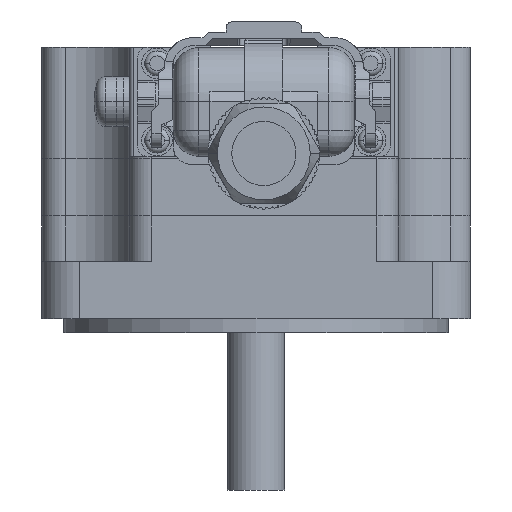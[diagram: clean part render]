
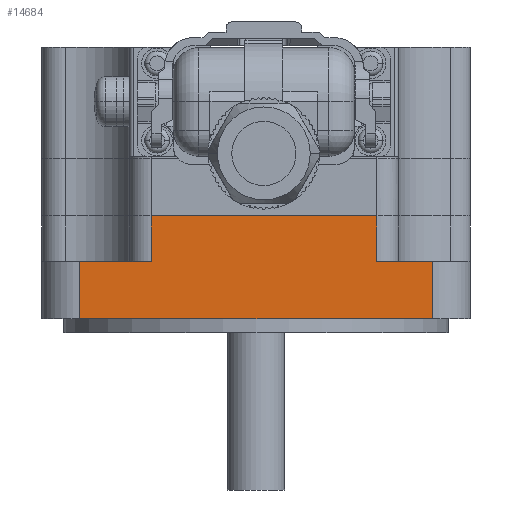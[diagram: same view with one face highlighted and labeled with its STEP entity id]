
A CAD part, front view. The second image highlights one B-rep face of the part: STEP entity #14684.
In plain terms, the highlighted planar face has unit normal (0, -1, 0).
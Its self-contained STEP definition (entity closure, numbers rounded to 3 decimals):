
#303 = EDGE_CURVE ( 'NONE', #13177, #16552, #15212, .T. ) ;
#1094 = VERTEX_POINT ( 'NONE', #16991 ) ;
#1109 = VECTOR ( 'NONE', #14934, 1000. ) ;
#1419 = CARTESIAN_POINT ( 'NONE',  ( -30., -30., 14.4 ) ) ;
#1608 = DIRECTION ( 'NONE',  ( -1., 0., 0. ) ) ;
#1793 = VERTEX_POINT ( 'NONE', #5108 ) ;
#2015 = VECTOR ( 'NONE', #18438, 1000. ) ;
#2038 = VECTOR ( 'NONE', #17392, 1000. ) ;
#2253 = ORIENTED_EDGE ( 'NONE', *, *, #14848, .T. ) ;
#2566 = DIRECTION ( 'NONE',  ( 0., 0., 1. ) ) ;
#2669 = CARTESIAN_POINT ( 'NONE',  ( -24.7, -30., 0. ) ) ;
#3245 = EDGE_CURVE ( 'NONE', #13177, #16671, #5817, .T. ) ;
#3460 = EDGE_CURVE ( 'NONE', #1094, #1793, #6819, .T. ) ;
#3500 = CARTESIAN_POINT ( 'NONE',  ( 24.7, -30., 8. ) ) ;
#3788 = VECTOR ( 'NONE', #17988, 1000. ) ;
#4527 = CARTESIAN_POINT ( 'NONE',  ( 16.94, -30., 14.4 ) ) ;
#4800 = EDGE_CURVE ( 'NONE', #16552, #15923, #7222, .T. ) ;
#4822 = VECTOR ( 'NONE', #15986, 1000. ) ;
#5082 = LINE ( 'NONE', #5274, #5116 ) ;
#5108 = CARTESIAN_POINT ( 'NONE',  ( -14.69, -30., 8. ) ) ;
#5116 = VECTOR ( 'NONE', #9558, 1000. ) ;
#5274 = CARTESIAN_POINT ( 'NONE',  ( -24.7, -30., 8. ) ) ;
#5763 = LINE ( 'NONE', #11573, #2038 ) ;
#5817 = LINE ( 'NONE', #1419, #7506 ) ;
#5997 = LINE ( 'NONE', #17801, #1109 ) ;
#6347 = ORIENTED_EDGE ( 'NONE', *, *, #4800, .F. ) ;
#6582 = AXIS2_PLACEMENT_3D ( 'NONE', #17339, #18674, #2566 ) ;
#6819 = LINE ( 'NONE', #12628, #2015 ) ;
#7163 = ORIENTED_EDGE ( 'NONE', *, *, #13378, .T. ) ;
#7222 = LINE ( 'NONE', #14453, #4822 ) ;
#7506 = VECTOR ( 'NONE', #1608, 1000. ) ;
#8279 = CARTESIAN_POINT ( 'NONE',  ( -14.69, -30., 38. ) ) ;
#8503 = ORIENTED_EDGE ( 'NONE', *, *, #3245, .T. ) ;
#9558 = DIRECTION ( 'NONE',  ( 0., 0., -1. ) ) ;
#9603 = DIRECTION ( 'NONE',  ( 0., 0., -1. ) ) ;
#9917 = PLANE ( 'NONE',  #6582 ) ;
#10183 = FACE_OUTER_BOUND ( 'NONE', #13750, .T. ) ;
#10747 = CARTESIAN_POINT ( 'NONE',  ( 16.94, -30., 38. ) ) ;
#10915 = CARTESIAN_POINT ( 'NONE',  ( 16.94, -30., 8. ) ) ;
#11573 = CARTESIAN_POINT ( 'NONE',  ( 24.7, -30., 8. ) ) ;
#12020 = ORIENTED_EDGE ( 'NONE', *, *, #303, .F. ) ;
#12221 = ORIENTED_EDGE ( 'NONE', *, *, #13045, .T. ) ;
#12628 = CARTESIAN_POINT ( 'NONE',  ( -30., -30., 8. ) ) ;
#13045 = EDGE_CURVE ( 'NONE', #16101, #15923, #5763, .T. ) ;
#13177 = VERTEX_POINT ( 'NONE', #4527 ) ;
#13378 = EDGE_CURVE ( 'NONE', #1094, #18072, #5082, .T. ) ;
#13729 = ORIENTED_EDGE ( 'NONE', *, *, #3460, .F. ) ;
#13750 = EDGE_LOOP ( 'NONE', ( #12020, #8503, #16526, #13729, #7163, #2253, #12221, #6347 ) ) ;
#14453 = CARTESIAN_POINT ( 'NONE',  ( 30., -30., 8. ) ) ;
#14684 = ADVANCED_FACE ( 'NONE', ( #10183 ), #9917, .F. ) ;
#14848 = EDGE_CURVE ( 'NONE', #18072, #16101, #5997, .T. ) ;
#14934 = DIRECTION ( 'NONE',  ( 1., 0., 0. ) ) ;
#14957 = EDGE_CURVE ( 'NONE', #16671, #1793, #16750, .T. ) ;
#15212 = LINE ( 'NONE', #10747, #3788 ) ;
#15923 = VERTEX_POINT ( 'NONE', #3500 ) ;
#15986 = DIRECTION ( 'NONE',  ( 1., 0., 0. ) ) ;
#16101 = VERTEX_POINT ( 'NONE', #17045 ) ;
#16526 = ORIENTED_EDGE ( 'NONE', *, *, #14957, .T. ) ;
#16552 = VERTEX_POINT ( 'NONE', #10915 ) ;
#16671 = VERTEX_POINT ( 'NONE', #18440 ) ;
#16750 = LINE ( 'NONE', #8279, #18548 ) ;
#16991 = CARTESIAN_POINT ( 'NONE',  ( -24.7, -30., 8. ) ) ;
#17045 = CARTESIAN_POINT ( 'NONE',  ( 24.7, -30., 0. ) ) ;
#17339 = CARTESIAN_POINT ( 'NONE',  ( -30., -30., 8. ) ) ;
#17392 = DIRECTION ( 'NONE',  ( 0., 0., 1. ) ) ;
#17801 = CARTESIAN_POINT ( 'NONE',  ( -30., -30., 0. ) ) ;
#17988 = DIRECTION ( 'NONE',  ( 0., 0., -1. ) ) ;
#18072 = VERTEX_POINT ( 'NONE', #2669 ) ;
#18438 = DIRECTION ( 'NONE',  ( 1., 0., 0. ) ) ;
#18440 = CARTESIAN_POINT ( 'NONE',  ( -14.69, -30., 14.4 ) ) ;
#18548 = VECTOR ( 'NONE', #9603, 1000. ) ;
#18674 = DIRECTION ( 'NONE',  ( 0., 1., 0. ) ) ;
